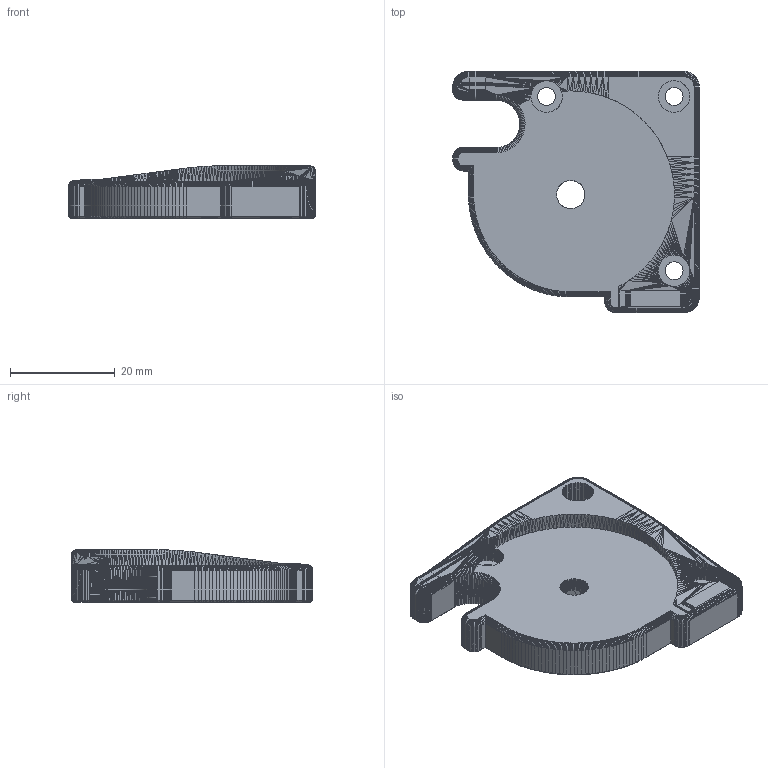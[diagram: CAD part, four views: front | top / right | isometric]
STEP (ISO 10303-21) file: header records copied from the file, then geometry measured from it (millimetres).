
FILE_DESCRIPTION(('Open CASCADE Model'),'2;1');
FILE_NAME('Open CASCADE Shape Model','2026-11-22T23:46:02',('Author'),( 'Open CASCADE'),'Open CASCADE STEP processor 8.0','Open CASCADE 8.0' ,'Unknown');
FILE_SCHEMA(('AUTOMOTIVE_DESIGN { 1 0 10303 214 1 1 1 1 }'));
Products named in the file (1): [a]_z_drive_baseplate_a_plus3mm_x2
Bounding box: 47 x 46 x 10 mm (x, y, z)
Volume: 12862.9 mm3; surface area: 5596 mm2
Topology: 1 solids, 1 shells, 8891 faces, 14428 edges, 5540 vertices
Faces by surface type: plane 8891
Entity records: 370804 total; most frequent: DIRECTION 61068, CARTESIAN_POINT 57716, LINE 43284, VECTOR 43284, ORIENTED_EDGE 28856, PCURVE 28856, DEFINITIONAL_REPRESENTATION 28856, EDGE_CURVE 14428
